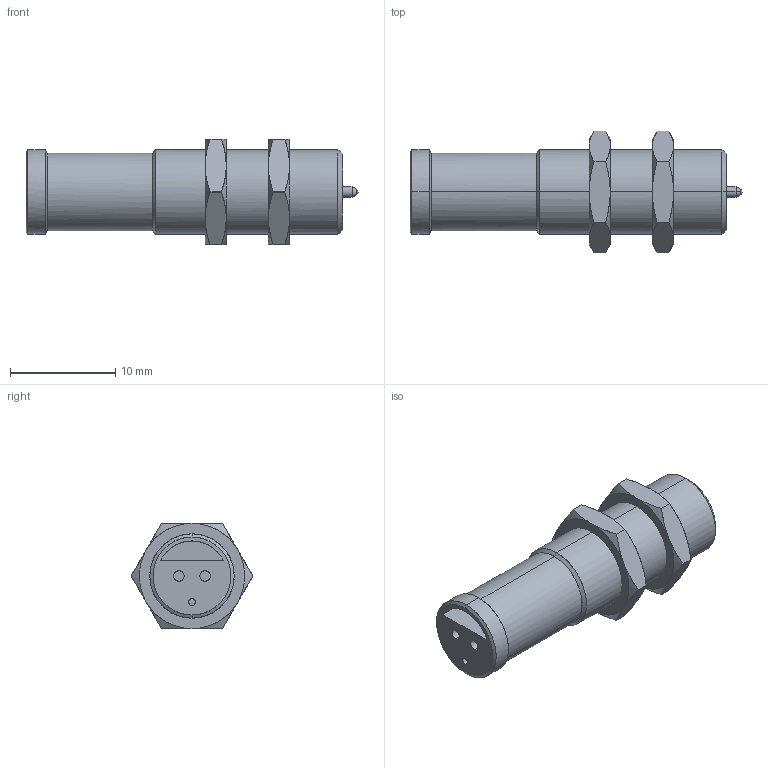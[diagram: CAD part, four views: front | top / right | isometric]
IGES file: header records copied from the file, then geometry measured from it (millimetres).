
Start section: Comment
Global section: file name: MY COM_B_S30.igs; native system:  By Spatial Corp.; preprocessor: XPlus GENERIC/IGES 3.0; author: Author; organization: Title; date: 20070405.093515; units: millimetre
Bounding box: 31.5 x 11.55 x 10 mm (x, y, z)
Surface area: 1335.5 mm2 (no closed solid volume)
Topology: 0 solids, 0 shells, 77 faces, 320 edges, 320 vertices
Faces by surface type: bspline 77
